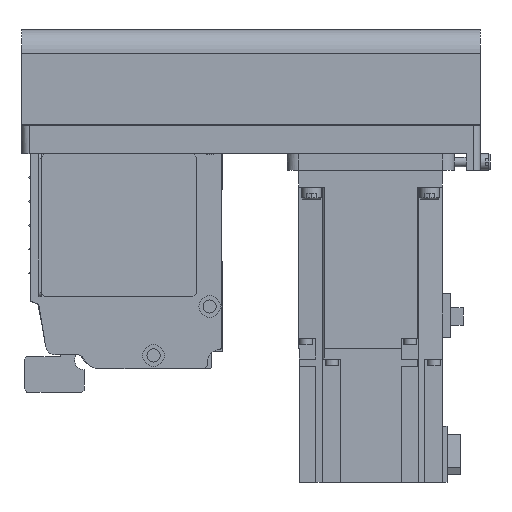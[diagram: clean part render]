
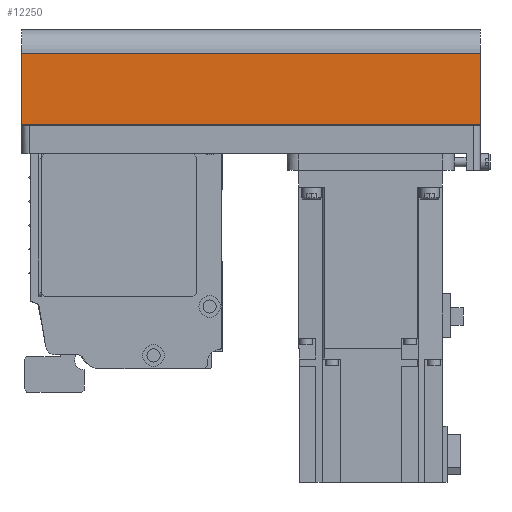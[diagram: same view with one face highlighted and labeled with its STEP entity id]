
A CAD part, left-side view. The second image highlights one B-rep face of the part: STEP entity #12250.
In plain terms, the highlighted planar face has unit normal (-1, 0, 0) as drawn and (0, -1, 0) by its records, which use the part's own axes.
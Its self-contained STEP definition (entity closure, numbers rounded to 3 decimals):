
#2209=ORIENTED_EDGE('',*,*,#4973,.F.);
#2210=ORIENTED_EDGE('',*,*,#4939,.F.);
#2211=ORIENTED_EDGE('',*,*,#4962,.T.);
#2212=ORIENTED_EDGE('',*,*,#5006,.T.);
#4939=EDGE_CURVE('',#6487,#6488,#7721,.T.);
#4962=EDGE_CURVE('',#6487,#6506,#7740,.T.);
#4973=EDGE_CURVE('',#6488,#6514,#7749,.T.);
#5006=EDGE_CURVE('',#6506,#6514,#7762,.T.);
#6487=VERTEX_POINT('',#19063);
#6488=VERTEX_POINT('',#19065);
#6506=VERTEX_POINT('',#19108);
#6514=VERTEX_POINT('',#19132);
#7721=LINE('',#19064,#8949);
#7740=LINE('',#19109,#8968);
#7749=LINE('',#19131,#8977);
#7762=LINE('',#19189,#8990);
#8949=VECTOR('',#15326,1000.);
#8968=VECTOR('',#15359,1000.);
#8977=VECTOR('',#15380,1000.);
#8990=VECTOR('',#15465,1000.);
#10046=EDGE_LOOP('',(#2209,#2210,#2211,#2212));
#10952=FACE_BOUND('',#10046,.T.);
#11689=PLANE('',#13203);
#12250=ADVANCED_FACE('',(#10952),#11689,.T.);
#13203=AXIS2_PLACEMENT_3D('',#19190,#15466,#15467);
#15326=DIRECTION('',(1.,0.,0.));
#15359=DIRECTION('',(0.,0.,-1.));
#15380=DIRECTION('',(0.,0.,-1.));
#15465=DIRECTION('',(1.,0.,0.));
#15466=DIRECTION('',(0.,-1.,0.));
#15467=DIRECTION('',(0.,0.,-1.));
#19063=CARTESIAN_POINT('',(-192.,-40.,-12.1));
#19064=CARTESIAN_POINT('',(-192.,-40.,-12.1));
#19065=CARTESIAN_POINT('',(0.,-40.,-12.1));
#19108=CARTESIAN_POINT('',(-192.,-40.,-42.));
#19109=CARTESIAN_POINT('',(-192.,-40.,-12.1));
#19131=CARTESIAN_POINT('',(0.,-40.,-12.1));
#19132=CARTESIAN_POINT('',(0.,-40.,-42.));
#19189=CARTESIAN_POINT('',(-192.,-40.,-42.));
#19190=CARTESIAN_POINT('',(-192.,-40.,-12.1));
